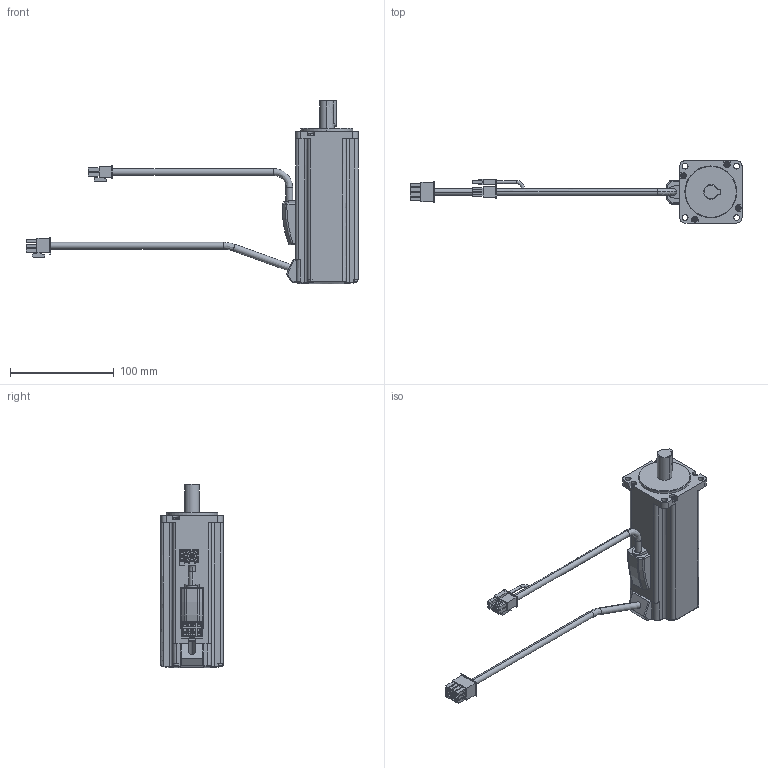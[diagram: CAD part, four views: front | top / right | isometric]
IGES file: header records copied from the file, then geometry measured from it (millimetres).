
Start section:  PTC IGES file: 10001009_rsmz-04ba_brake.igs
Global section: file name: 10001009_rsmz-04ba_brake.igs; native system: Pro/ENGINEER by Parametric Technology Corporation; preprocessor: 2004440; author: Administrator; organization: Unknown; date: 070829.201103; units: millimetre
Bounding box: 319.76 x 60 x 176.5 mm (x, y, z)
Volume: 494159.3 mm3; surface area: 60452.4 mm2
Topology: 1 solids, 1 shells, 526 faces, 1320 edges, 858 vertices
Faces by surface type: bspline 376, revolution 150
